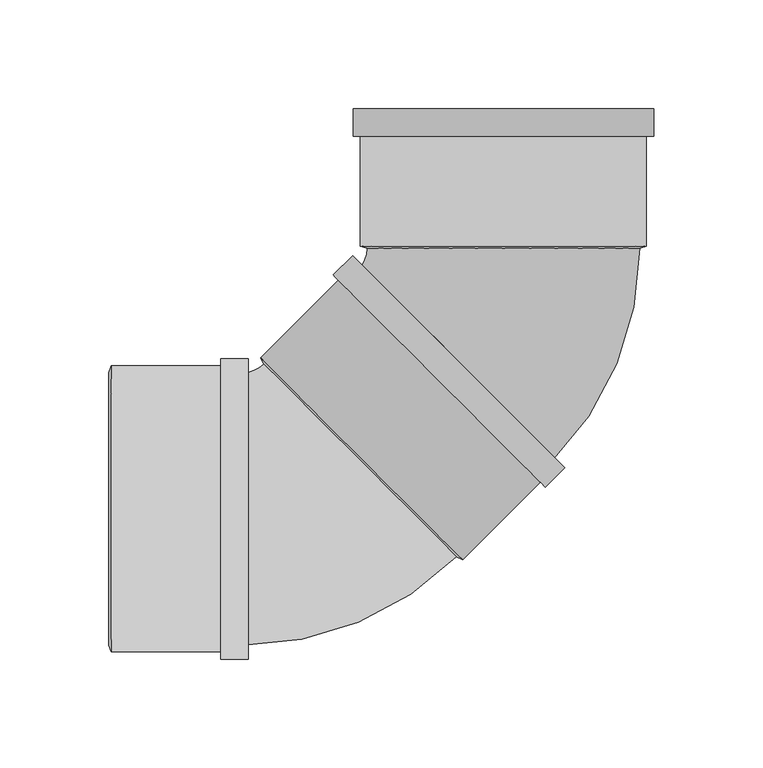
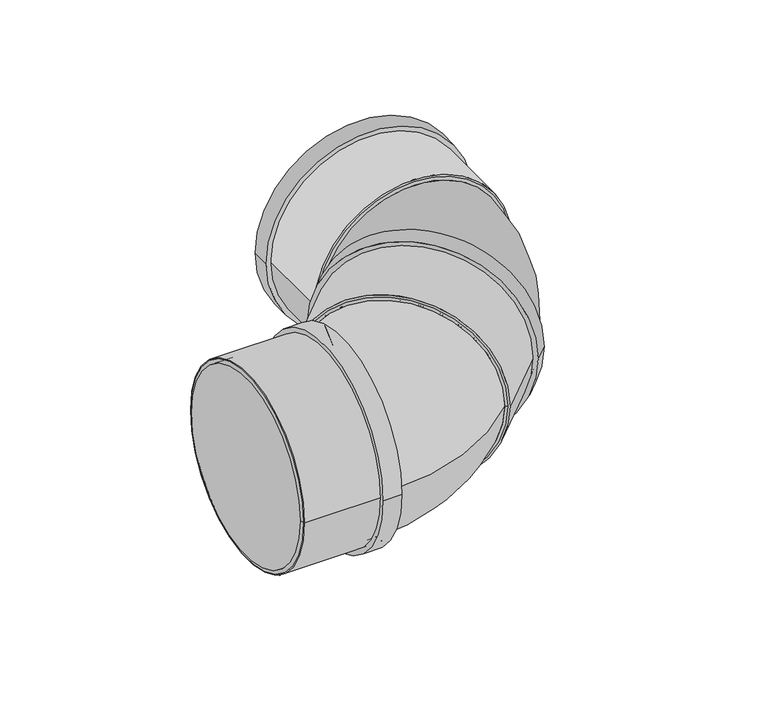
"""IFC4 building model written with IfcOpenShell, lengths in millimetres: pipe fitting geometry, Superdrain HT Bend Composite 2x45 : Superdrain HT Bend Composite 2x45."""

from ifc_helpers import new_model, si_unit, point, frame, origin, origin_2d, place, context, project, spatial, polyline, circle_curve, ellipse_curve, trimmed, segment, composite_curve, outline, extrude, source, transform, mapped, element, save
from ifc_brep_helpers import plane_surface, revolved_surface, advanced_brep


def pipe_fitting_97af18a5(model_context):
    return source(origin(), model_context, "Body", "SolidModel", [
        advanced_brep(
        [(62.5, 119.5347943, 0.0), (-62.5, 119.5347943, 0.0), (21.9203102, 21.5667568, 0.0), (-66.4680374, 109.9551045, 0.0)],
        [
            (0, 1, circle_curve(frame((0.0, 119.5347943, 0.0), z_axis=(0.0, 0.9999999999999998, 0.0), x_axis=(-0.9999999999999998, 0.0, 0.0)), 62.5)),
            (1, 0, circle_curve(frame((0.0, 119.5347943, 0.0), z_axis=(0.0, 1.0, 0.0), x_axis=(-1.0, 0.0, 0.0)), 62.5)),
            (2, 3, circle_curve(frame((-22.2738636, 65.7609307, 0.0), z_axis=(-0.7071067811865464, -0.7071067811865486, 0.0), x_axis=(-0.7071067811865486, 0.7071067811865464, 0.0)), 62.5)),
            (3, 2, circle_curve(frame((-22.2738636, 65.7609307, 0.0), z_axis=(-0.7071067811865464, -0.7071067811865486, 0.0), x_axis=(-0.7071067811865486, 0.7071067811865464, 0.0)), 62.5)),
            (3, 1, circle_curve(frame((-76.0477272, 119.5347943, 0.0), z_axis=(0.0, 0.0, 1.0), x_axis=(0.7071067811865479, 0.707106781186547, 0.0)), 13.5477272)),
            (0, 2, circle_curve(frame((-76.0477272, 119.5347943, 0.0), z_axis=(0.0, 0.0, -1.0), x_axis=(0.7071067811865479, 0.707106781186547, 0.0)), 138.5477272)),
        ],
        [
            plane_surface(frame((0.0, 119.5347943, 0.0), z_axis=(0.0, 1.0, 0.0), x_axis=(0.0, 0.0, -1.0))),
            plane_surface(frame((-22.2738636, 65.7609307, 0.0), z_axis=(-0.7071067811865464, -0.7071067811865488, 0.0), x_axis=(0.0, 0.0, -1.0))),
            revolved_surface(trimmed(ellipse_curve(frame((-22.2738636, 173.3086579, 0.0), z_axis=(0.7071067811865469, -0.707106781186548, 0.0), x_axis=(-0.707106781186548, -0.7071067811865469, 0.0)), 62.5, 62.5), [point((-66.4680374, 129.114484, 0.0))], [point((21.9203102, 217.5028317, 0.0))], True, "CARTESIAN"), (-76.0477272, 119.5347943, 0.0), (0.0, 0.0, 1.0)),
            revolved_surface(trimmed(ellipse_curve(frame((-22.2738636, 173.3086579, 0.0), z_axis=(0.7071067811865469, -0.707106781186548, 0.0), x_axis=(-0.707106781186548, -0.7071067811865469, 0.0)), 62.5, 62.5), [point((21.9203102, 217.5028317, 0.0))], [point((-66.4680374, 129.114484, 0.0))], True, "CARTESIAN"), (-76.0477272, 119.5347943, 0.0), (0.0, 0.0, 1.0)),
        ],
        [
            (0, [[1, 2]]),
            (1, [[3, 4]]),
            (2, [[-4, 5, -1, 6]]),
            (3, [[-3, -6, -2, -5]]),
        ],
    ),
        extrude(outline(composite_curve([segment(trimmed(circle_curve(origin_2d(), 65.625), [point((0.0, 65.625))], [point((0.0, -65.625))], False, "CARTESIAN"), True, "CONTINUOUS"), segment(trimmed(circle_curve(origin_2d(), 65.625), [point((0.0, -65.625))], [point((0.0, 65.625))], False, "CARTESIAN"), True, "CONTINUOUS")], self_intersect=False), holes=[composite_curve([segment(trimmed(circle_curve(origin_2d(), 62.5), [point((0.0, 62.5))], [point((0.0, -62.5))], True, "CARTESIAN"), True, "CONTINUOUS"), segment(trimmed(circle_curve(origin_2d(), 62.5), [point((0.0, -62.5))], [point((0.0, 62.5))], True, "CARTESIAN"), True, "CONTINUOUS")], self_intersect=False)]), frame((0.0, 120.5347943, 0.0), z_axis=(0.0, 1.0, 0.0), x_axis=(0.0, 0.0, 1.0)), (0.0, 0.0, 1.0), 63.0),
        extrude(outline(composite_curve([segment(trimmed(circle_curve(origin_2d(), 68.90625), [point((0.0, -68.90625))], [point((0.0, 68.90625))], False, "CARTESIAN"), True, "CONTINUOUS"), segment(trimmed(circle_curve(origin_2d(), 68.90625), [point((0.0, 68.90625))], [point((0.0, -68.90625))], False, "CARTESIAN"), True, "CONTINUOUS")], self_intersect=False), holes=[composite_curve([segment(trimmed(circle_curve(origin_2d(), 62.5), [point((0.0, -62.5))], [point((0.0, 62.5))], True, "CARTESIAN"), True, "CONTINUOUS"), segment(trimmed(circle_curve(origin_2d(), 62.5), [point((0.0, 62.5))], [point((0.0, -62.5))], True, "CARTESIAN"), True, "CONTINUOUS")], self_intersect=False)]), frame((0.0, 170.9347943, 0.0), z_axis=(0.0, 1.0, 0.0), x_axis=(0.0, 0.0, 1.0)), (0.0, 0.0, 1.0), 12.6),
        advanced_brep(
        [(65.625, 120.5347943, 0.0), (-65.625, 120.5347943, 0.0), (62.5, 119.5347943, 0.0), (-62.5, 119.5347943, 0.0)],
        [
            (0, 1, circle_curve(frame((0.0, 120.5347943, 0.0), z_axis=(0.0, 1.0, 0.0), x_axis=(1.0, 0.0, 0.0)), 65.625)),
            (1, 0, circle_curve(frame((0.0, 120.5347943, 0.0), z_axis=(0.0, 1.0, 0.0), x_axis=(-0.9999999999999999, 0.0, 0.0)), 65.625)),
            (2, 3, circle_curve(frame((0.0, 119.5347943, 0.0), z_axis=(0.0, -1.0, 0.0), x_axis=(-0.9999999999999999, 0.0, 0.0)), 62.5)),
            (3, 2, circle_curve(frame((0.0, 119.5347943, 0.0), z_axis=(0.0, -1.0, 0.0), x_axis=(1.0, 0.0, 0.0)), 62.5)),
            (3, 1),
            (0, 2),
        ],
        [
            plane_surface(frame((0.0, 120.5347943, 0.0), z_axis=(0.0, 1.0, 0.0), x_axis=(0.0, 0.0, -1.0))),
            plane_surface(frame((0.0, 119.5347943, 0.0), z_axis=(0.0, -1.0, 0.0), x_axis=(0.0, 0.0, -1.0))),
            revolved_surface(polyline([(-62.5, 119.5347943, 0.0), (-65.625, 120.5347943, 0.0)]), (0.0, 99.5347943, 0.0), (0.0, 0.9999999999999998, 0.0)),
            revolved_surface(polyline([(62.5, 119.5347943, 0.0), (65.625, 120.5347943, 0.0)]), (0.0, 99.5347943, 0.0), (0.0, 0.9999999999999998, 0.0)),
        ],
        [
            (0, [[1, 2]]),
            (1, [[3, 4]]),
            (2, [[-4, 5, -1, 6]]),
            (3, [[-3, -6, -2, -5]]),
        ],
    ),
        extrude(outline(composite_curve([segment(trimmed(circle_curve(origin_2d(), 62.5), [point((0.0, -62.5))], [point((0.0, 62.5))], False, "CARTESIAN"), True, "CONTINUOUS"), segment(trimmed(circle_curve(origin_2d(), 62.5), [point((0.0, 62.5))], [point((0.0, -62.5))], False, "CARTESIAN"), True, "CONTINUOUS")], self_intersect=False)), frame((-65.0538239, 22.9809704, 0.0), z_axis=(0.707106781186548, 0.7071067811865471, 0.0), x_axis=(0.0, 0.0, -1.0)), (0.0, 0.0, 1.0), 60.5),
        extrude(outline(composite_curve([segment(trimmed(circle_curve(origin_2d(), 65.625), [point((65.625, 0.0))], [point((-65.625, 0.0))], False, "CARTESIAN"), True, "CONTINUOUS"), segment(trimmed(circle_curve(origin_2d(), 65.625), [point((-65.625, 0.0))], [point((65.625, 0.0))], False, "CARTESIAN"), True, "CONTINUOUS")], self_intersect=False), holes=[composite_curve([segment(trimmed(circle_curve(origin_2d(), 62.5), [point((62.5, 0.0))], [point((-62.5, 0.0))], True, "CARTESIAN"), True, "CONTINUOUS"), segment(trimmed(circle_curve(origin_2d(), 62.5), [point((-62.5, 0.0))], [point((62.5, 0.0))], True, "CARTESIAN"), True, "CONTINUOUS")], self_intersect=False)]), frame((-180.0347943, 0.0, 0.0), z_axis=(1.0, 0.0, 0.0), x_axis=(0.0, 1.0, 0.0)), (0.0, 0.0, 1.0), 63.0),
        extrude(outline(composite_curve([segment(trimmed(circle_curve(origin_2d(), 68.90625), [point((68.90625, 0.0))], [point((-68.90625, 0.0))], False, "CARTESIAN"), True, "CONTINUOUS"), segment(trimmed(circle_curve(origin_2d(), 68.90625), [point((-68.90625, 0.0))], [point((68.90625, 0.0))], False, "CARTESIAN"), True, "CONTINUOUS")], self_intersect=False), holes=[composite_curve([segment(trimmed(circle_curve(origin_2d(), 62.5), [point((62.5, 0.0))], [point((-62.5, 0.0))], True, "CARTESIAN"), True, "CONTINUOUS"), segment(trimmed(circle_curve(origin_2d(), 62.5), [point((-62.5, 0.0))], [point((62.5, 0.0))], True, "CARTESIAN"), True, "CONTINUOUS")], self_intersect=False)]), frame((-129.6347943, 0.0, 0.0), z_axis=(1.0, 0.0, 0.0), x_axis=(0.0, 1.0, 0.0)), (0.0, 0.0, 1.0), 12.6),
        advanced_brep(
        [(-181.0347943, 62.5, 0.0), (-181.0347943, -62.5, 0.0), (-180.0347943, 65.625, 0.0), (-180.0347943, -65.625, 0.0)],
        [
            (0, 1, circle_curve(frame((-181.0347943, 0.0, 0.0), z_axis=(-1.0, 0.0, 0.0), x_axis=(0.0, 1.0000000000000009, 0.0)), 62.5)),
            (1, 0, circle_curve(frame((-181.0347943, 0.0, 0.0), z_axis=(-1.0, 0.0, 0.0), x_axis=(0.0, -1.0000000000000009, 0.0)), 62.5)),
            (2, 3, circle_curve(frame((-180.0347943, 0.0, 0.0), z_axis=(1.0, 0.0, 0.0), x_axis=(0.0, -1.0000000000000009, 0.0)), 65.625)),
            (3, 2, circle_curve(frame((-180.0347943, 0.0, 0.0), z_axis=(1.0, 0.0, 0.0), x_axis=(0.0, 1.0000000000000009, 0.0)), 65.625)),
            (3, 1),
            (0, 2),
        ],
        [
            plane_surface(frame((-181.0347943, 0.0, 0.0), z_axis=(-1.0, 0.0, 0.0), x_axis=(0.0, 0.0, -1.0))),
            plane_surface(frame((-180.0347943, 0.0, 0.0), z_axis=(1.0, 0.0, 0.0), x_axis=(0.0, 0.0, -1.0))),
            revolved_surface(polyline([(-181.0347943, 62.499999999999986, 0.0), (-180.0347943, 65.625, 0.0)]), (-201.0347943, 0.0, 0.0), (1.0000000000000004, 0.0, 0.0)),
            revolved_surface(polyline([(-181.0347943, -62.499999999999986, 0.0), (-180.0347943, -65.625, 0.0)]), (-201.0347943, 0.0, 0.0), (1.0000000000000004, 0.0, 0.0)),
        ],
        [
            (0, [[1, 2]]),
            (1, [[3, 4]]),
            (2, [[-4, 5, -1, 6]]),
            (3, [[-3, -6, -2, -5]]),
        ],
    ),
        advanced_brep(
        [(-21.5667568, -21.9203102, 0.0), (-109.9551045, 66.4680374, 0.0), (-119.5347943, -62.5, 0.0), (-119.5347943, 62.5, 0.0)],
        [
            (0, 1, circle_curve(frame((-65.7609307, 22.2738636, 0.0), z_axis=(0.7071067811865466, 0.7071067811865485, 0.0), x_axis=(-0.7071067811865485, 0.7071067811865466, 0.0)), 62.5)),
            (1, 0, circle_curve(frame((-65.7609307, 22.2738636, 0.0), z_axis=(0.7071067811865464, 0.7071067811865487, 0.0), x_axis=(-0.7071067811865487, 0.7071067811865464, 0.0)), 62.5)),
            (2, 3, circle_curve(frame((-119.5347943, 0.0, 0.0), z_axis=(-1.0, 0.0, 0.0), x_axis=(0.0, 1.0, 0.0)), 62.5)),
            (3, 2, circle_curve(frame((-119.5347943, 0.0, 0.0), z_axis=(-1.0, 0.0, 0.0), x_axis=(0.0, 1.0, 0.0)), 62.5)),
            (3, 1, circle_curve(frame((-119.5347943, 76.0477272, 0.0), z_axis=(0.0, 0.0, 1.0), x_axis=(1.0, 0.0, 0.0)), 13.5477272)),
            (0, 2, circle_curve(frame((-119.5347943, 76.0477272, 0.0), z_axis=(0.0, 0.0, -1.0), x_axis=(1.0, 0.0, 0.0)), 138.5477272)),
        ],
        [
            plane_surface(frame((-65.7609307, 22.2738636, 0.0), z_axis=(0.7071067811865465, 0.7071067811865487, 0.0), x_axis=(0.0, 0.0, -1.0))),
            plane_surface(frame((-119.5347943, 0.0, 0.0), z_axis=(-1.0, 0.0, 0.0), x_axis=(0.0, 0.0, -1.0))),
            revolved_surface(trimmed(ellipse_curve(frame((-43.487067, 76.0477272, 0.0), z_axis=(0.0, -1.0, 0.0), x_axis=(-1.0, 0.0, 0.0)), 62.5, 62.5), [point((-105.987067, 76.0477272, 0.0))], [point((19.012933, 76.0477272, 0.0))], True, "CARTESIAN"), (-119.5347943, 76.0477272, 0.0), (0.0, 0.0, 1.0)),
            revolved_surface(trimmed(ellipse_curve(frame((-43.487067, 76.0477272, 0.0), z_axis=(0.0, -1.0, 0.0), x_axis=(-1.0, 0.0, 0.0)), 62.5, 62.5), [point((19.012933, 76.0477272, 0.0))], [point((-105.987067, 76.0477272, 0.0))], True, "CARTESIAN"), (-119.5347943, 76.0477272, 0.0), (0.0, 0.0, 1.0)),
        ],
        [
            (0, [[1, 2]]),
            (1, [[3, 4]]),
            (2, [[-4, 5, -1, 6]]),
            (3, [[-3, -6, -2, -5]]),
        ],
    ),
        extrude(outline(composite_curve([segment(trimmed(circle_curve(origin_2d(), 65.625), [point((0.0, 65.625))], [point((0.0, -65.625))], False, "CARTESIAN"), True, "CONTINUOUS"), segment(trimmed(circle_curve(origin_2d(), 65.625), [point((0.0, -65.625))], [point((0.0, 65.625))], False, "CARTESIAN"), True, "CONTINUOUS")], self_intersect=False), holes=[composite_curve([segment(trimmed(circle_curve(origin_2d(), 62.5), [point((0.0, 62.5))], [point((0.0, -62.5))], True, "CARTESIAN"), True, "CONTINUOUS"), segment(trimmed(circle_curve(origin_2d(), 62.5), [point((0.0, -62.5))], [point((0.0, 62.5))], True, "CARTESIAN"), True, "CONTINUOUS")], self_intersect=False)]), frame((-65.0538239, 22.9809704, 0.0), z_axis=(0.707106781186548, 0.707106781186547, 0.0), x_axis=(0.0, 0.0, 1.0)), (0.0, 0.0, 1.0), 63.0),
        extrude(outline(composite_curve([segment(trimmed(circle_curve(origin_2d(), 68.90625), [point((0.0, -68.9062499))], [point((0.0, 68.90625))], False, "CARTESIAN"), True, "CONTINUOUS"), segment(trimmed(circle_curve(origin_2d(), 68.90625), [point((0.0, 68.90625))], [point((0.0, -68.9062499))], False, "CARTESIAN"), True, "CONTINUOUS")], self_intersect=False), holes=[composite_curve([segment(trimmed(circle_curve(origin_2d(), 62.5), [point((0.0, -62.5))], [point((0.0, 62.5))], True, "CARTESIAN"), True, "CONTINUOUS"), segment(trimmed(circle_curve(origin_2d(), 62.5), [point((0.0, 62.5))], [point((0.0, -62.5))], True, "CARTESIAN"), True, "CONTINUOUS")], self_intersect=False)]), frame((-29.4156421, 58.6191522, 0.0), z_axis=(0.7071067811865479, 0.7071067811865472, 0.0), x_axis=(0.0, 0.0, 1.0)), (0.0, 0.0, 1.0), 12.6),
        advanced_brep(
        [(-18.6499414, -23.4229121, 0.0), (-111.4577064, 69.3848529, 0.0), (-21.5667568, -21.9203102, 0.0), (-109.9551045, 66.4680374, 0.0)],
        [
            (0, 1, circle_curve(frame((-65.0538239, 22.9809704, 0.0), z_axis=(0.7071067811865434, 0.7071067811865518, 0.0), x_axis=(0.7071067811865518, -0.7071067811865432, 0.0)), 65.625)),
            (1, 0, circle_curve(frame((-65.0538239, 22.9809704, 0.0), z_axis=(0.7071067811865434, 0.7071067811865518, 0.0), x_axis=(-0.7071067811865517, 0.7071067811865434, 0.0)), 65.625)),
            (2, 3, circle_curve(frame((-65.7609307, 22.2738636, 0.0), z_axis=(-0.7071067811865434, -0.7071067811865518, 0.0), x_axis=(-0.7071067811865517, 0.7071067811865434, 0.0)), 62.5)),
            (3, 2, circle_curve(frame((-65.7609307, 22.2738636, 0.0), z_axis=(-0.7071067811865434, -0.7071067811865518, 0.0), x_axis=(0.7071067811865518, -0.7071067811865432, 0.0)), 62.5)),
            (3, 1),
            (0, 2),
        ],
        [
            plane_surface(frame((-65.0538239, 22.9809704, 0.0), z_axis=(0.7071067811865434, 0.7071067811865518, 0.0), x_axis=(0.0, 0.0, -1.0))),
            plane_surface(frame((-65.7609307, 22.2738636, 0.0), z_axis=(-0.7071067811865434, -0.7071067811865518, 0.0), x_axis=(0.0, 0.0, -1.0))),
            revolved_surface(polyline([(-109.95510444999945, 66.46803734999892, 0.0), (-111.4577064, 69.3848529, 0.0)]), (-79.9030663, 8.131728, 0.0), (0.7071067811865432, 0.7071067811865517, 0.0)),
            revolved_surface(polyline([(-21.566756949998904, -21.920310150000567, 0.0), (-18.649941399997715, -23.422912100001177, 0.0)]), (-79.9030663, 8.131728, 0.0), (0.7071067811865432, 0.7071067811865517, 0.0)),
        ],
        [
            (0, [[1, 2]]),
            (1, [[3, 4]]),
            (2, [[-4, 5, -1, 6]]),
            (3, [[-3, -6, -2, -5]]),
        ],
    ),
        extrude(outline(composite_curve([segment(trimmed(circle_curve(origin_2d(), 62.5), [point((-62.5, 0.0))], [point((62.5, 0.0))], False, "CARTESIAN"), True, "CONTINUOUS"), segment(trimmed(circle_curve(origin_2d(), 62.5), [point((62.5, 0.0))], [point((-62.5, 0.0))], False, "CARTESIAN"), True, "CONTINUOUS")], self_intersect=False)), frame((-180.0347943, 0.0, 0.0), z_axis=(1.0, 0.0, 0.0), x_axis=(0.0, 1.0, 0.0)), (0.0, 0.0, 1.0), 60.5),
    ])


if __name__ == "__main__":
    model = new_model("IFC4")
    model_context = context("Model", 3, world=origin())
    ifc_project = project(units=[si_unit("LENGTHUNIT", "METRE", prefix="MILLI")], contexts=[model_context])
    site = spatial("IfcSite", under=ifc_project)
    building = spatial("IfcBuilding", under=site)
    placement = place(None, origin())
    pipe_fitting_shape = pipe_fitting_97af18a5(model_context)
    element("IfcPipeFitting", 1, ObjectType="Superdrain HT Bend Composite 2x45 : Superdrain HT Bend Composite 2x45", at=placement, inside=building, context=model_context, shape_type="MappedRepresentation", body=[
        mapped(pipe_fitting_shape, transform((0.0, 0.0, 0.0), x_axis=(1.0, 0.0, 0.0), y_axis=(0.0, 1.0, 0.0), z_axis=(0.0, 0.0, 1.0))),
    ])
    save(model, "model.ifc")
